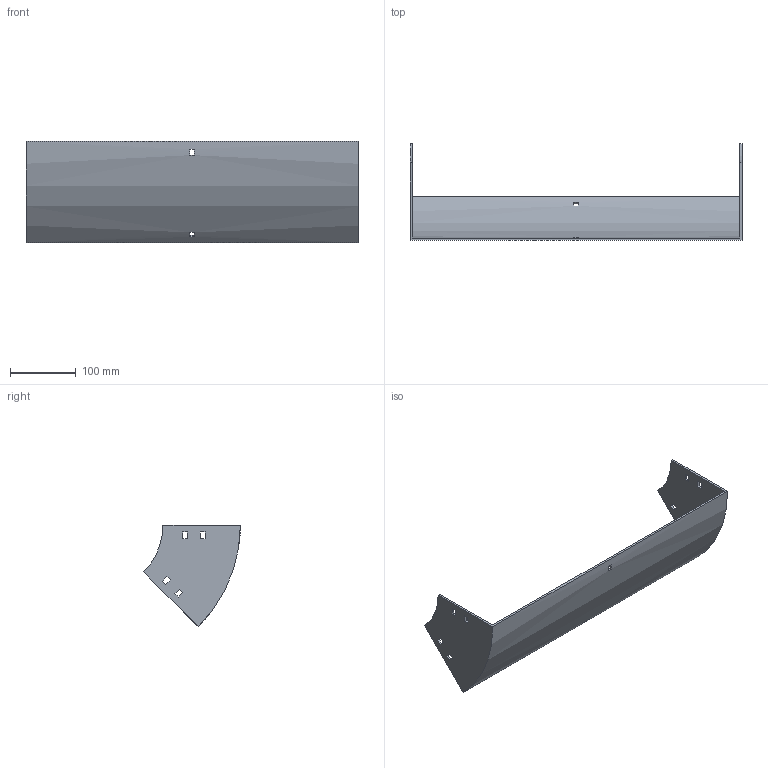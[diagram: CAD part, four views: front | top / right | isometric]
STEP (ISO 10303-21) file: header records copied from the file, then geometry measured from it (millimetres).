
FILE_DESCRIPTION (( 'STEP AP214' ), '1' );
FILE_NAME ('31B1J500.step', '2025-02-21T09:46:16', ( '' ), ( '' ), 'SwSTEP 2.0', 'SolidWorks 2023', '' );
FILE_SCHEMA (( 'AUTOMOTIVE_DESIGN' ));
Length unit declared in the file: millimetre
Products named in the file (1): 31B1J500
Bounding box: 504 x 146.79 x 153.8 mm (x, y, z)
Volume: 394937.9 mm3; surface area: 232531.8 mm2
Topology: 1 solids, 1 shells, 50 faces, 144 edges, 96 vertices
Faces by surface type: plane 46, cylinder 4
Entity records: 1687 total; most frequent: CARTESIAN_POINT 291, ORIENTED_EDGE 288, DIRECTION 262, EDGE_CURVE 144, LINE 128, VECTOR 128, VERTEX_POINT 96, EDGE_LOOP 70
